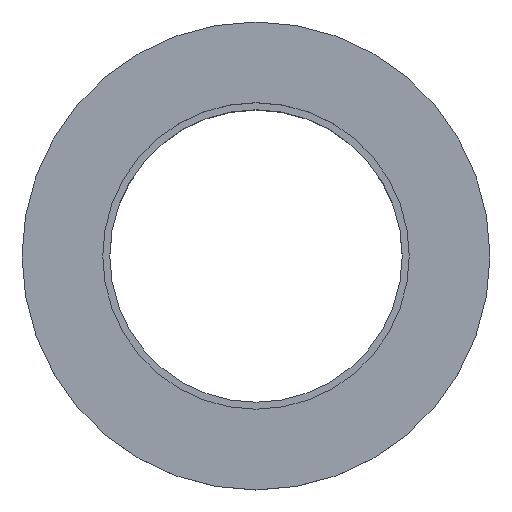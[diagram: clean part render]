
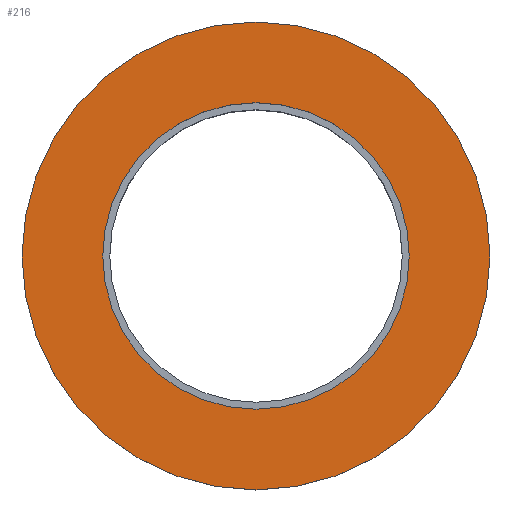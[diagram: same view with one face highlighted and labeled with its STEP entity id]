
A CAD part, top view. The second image highlights one B-rep face of the part: STEP entity #216.
In plain terms, the highlighted planar face has unit normal (0, 0, 1).
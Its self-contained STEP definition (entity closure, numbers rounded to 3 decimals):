
#11 = CIRCLE ( 'NONE', #289, 20. ) ;
#18 = AXIS2_PLACEMENT_3D ( 'NONE', #201, #472, #356 ) ;
#20 = CIRCLE ( 'NONE', #142, 13.1 ) ;
#29 = DIRECTION ( 'NONE',  ( 0., 0., 1. ) ) ;
#32 = DIRECTION ( 'NONE',  ( 1., 0., 0. ) ) ;
#72 = VERTEX_POINT ( 'NONE', #384 ) ;
#77 = ORIENTED_EDGE ( 'NONE', *, *, #213, .T. ) ;
#81 = CIRCLE ( 'NONE', #18, 13.1 ) ;
#99 = DIRECTION ( 'NONE',  ( 0., 0., 1. ) ) ;
#103 = CARTESIAN_POINT ( 'NONE',  ( 20., 0., 0. ) ) ;
#125 = EDGE_CURVE ( 'NONE', #260, #72, #81, .T. ) ;
#129 = AXIS2_PLACEMENT_3D ( 'NONE', #139, #29, #297 ) ;
#139 = CARTESIAN_POINT ( 'NONE',  ( 0., 0., 0. ) ) ;
#140 = DIRECTION ( 'NONE',  ( 0., 0., 1. ) ) ;
#142 = AXIS2_PLACEMENT_3D ( 'NONE', #202, #99, #199 ) ;
#163 = EDGE_CURVE ( 'NONE', #72, #260, #20, .T. ) ;
#180 = DIRECTION ( 'NONE',  ( 1., 0., 0. ) ) ;
#197 = EDGE_LOOP ( 'NONE', ( #334, #77 ) ) ;
#199 = DIRECTION ( 'NONE',  ( 1., 0., 0. ) ) ;
#201 = CARTESIAN_POINT ( 'NONE',  ( 0., 0., 0. ) ) ;
#202 = CARTESIAN_POINT ( 'NONE',  ( 0., 0., 0. ) ) ;
#205 = EDGE_LOOP ( 'NONE', ( #269, #274 ) ) ;
#212 = CARTESIAN_POINT ( 'NONE',  ( -13.1, 0., 0. ) ) ;
#213 = EDGE_CURVE ( 'NONE', #454, #249, #301, .T. ) ;
#215 = CARTESIAN_POINT ( 'NONE',  ( 0., 0., 0. ) ) ;
#216 = ADVANCED_FACE ( 'NONE', ( #294, #364 ), #437, .T. ) ;
#232 = AXIS2_PLACEMENT_3D ( 'NONE', #257, #332, #180 ) ;
#249 = VERTEX_POINT ( 'NONE', #103 ) ;
#256 = EDGE_CURVE ( 'NONE', #249, #454, #11, .T. ) ;
#257 = CARTESIAN_POINT ( 'NONE',  ( 0., 20., 0. ) ) ;
#260 = VERTEX_POINT ( 'NONE', #212 ) ;
#269 = ORIENTED_EDGE ( 'NONE', *, *, #163, .F. ) ;
#274 = ORIENTED_EDGE ( 'NONE', *, *, #125, .F. ) ;
#289 = AXIS2_PLACEMENT_3D ( 'NONE', #215, #140, #32 ) ;
#294 = FACE_OUTER_BOUND ( 'NONE', #197, .T. ) ;
#297 = DIRECTION ( 'NONE',  ( 1., 0., 0. ) ) ;
#301 = CIRCLE ( 'NONE', #129, 20. ) ;
#332 = DIRECTION ( 'NONE',  ( 0., 0., 1. ) ) ;
#334 = ORIENTED_EDGE ( 'NONE', *, *, #256, .T. ) ;
#356 = DIRECTION ( 'NONE',  ( 1., 0., 0. ) ) ;
#364 = FACE_BOUND ( 'NONE', #205, .T. ) ;
#384 = CARTESIAN_POINT ( 'NONE',  ( 13.1, 0., 0. ) ) ;
#392 = CARTESIAN_POINT ( 'NONE',  ( -20., 0., 0. ) ) ;
#437 = PLANE ( 'NONE',  #232 ) ;
#454 = VERTEX_POINT ( 'NONE', #392 ) ;
#472 = DIRECTION ( 'NONE',  ( 0., 0., 1. ) ) ;
